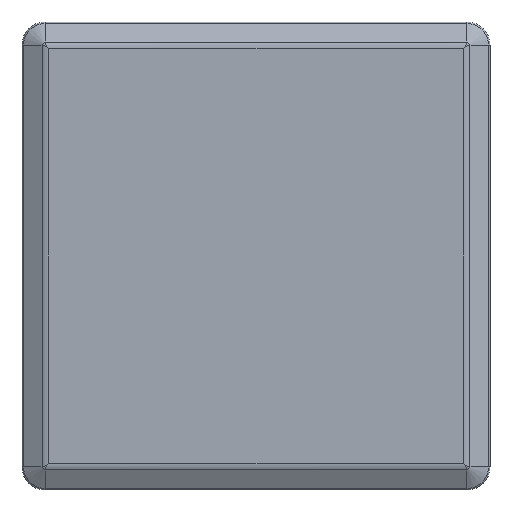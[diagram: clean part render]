
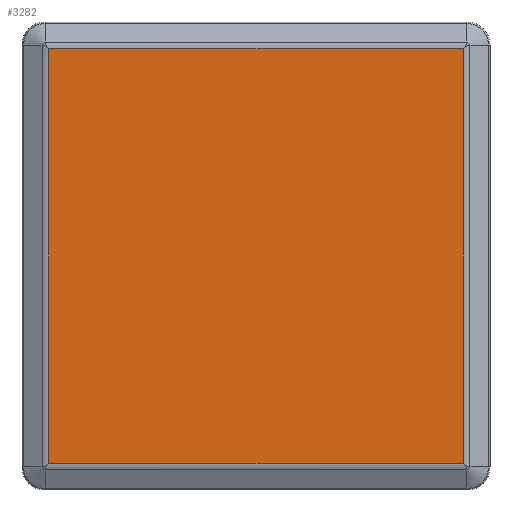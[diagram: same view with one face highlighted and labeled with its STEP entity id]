
A CAD part, front view. The second image highlights one B-rep face of the part: STEP entity #3282.
In plain terms, the highlighted planar face has unit normal (0, -1, 0).
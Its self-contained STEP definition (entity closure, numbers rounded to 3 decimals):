
#41 = EDGE_CURVE ( 'NONE', #1167, #441, #3137, .T. ) ;
#99 = VERTEX_POINT ( 'NONE', #3879 ) ;
#375 = ORIENTED_EDGE ( 'NONE', *, *, #3607, .T. ) ;
#441 = VERTEX_POINT ( 'NONE', #3079 ) ;
#513 = EDGE_CURVE ( 'NONE', #441, #1335, #668, .T. ) ;
#668 = LINE ( 'NONE', #3261, #3780 ) ;
#698 = VECTOR ( 'NONE', #1317, 1000. ) ;
#937 = ORIENTED_EDGE ( 'NONE', *, *, #41, .T. ) ;
#1167 = VERTEX_POINT ( 'NONE', #2328 ) ;
#1317 = DIRECTION ( 'NONE',  ( -1., 0., 0. ) ) ;
#1332 = CARTESIAN_POINT ( 'NONE',  ( -32., 0., 31.464 ) ) ;
#1335 = VERTEX_POINT ( 'NONE', #1402 ) ;
#1402 = CARTESIAN_POINT ( 'NONE',  ( 31.464, 0., -31.464 ) ) ;
#1519 = CARTESIAN_POINT ( 'NONE',  ( 31.464, 0., 32. ) ) ;
#1822 = AXIS2_PLACEMENT_3D ( 'NONE', #2243, #2202, #1996 ) ;
#1859 = EDGE_LOOP ( 'NONE', ( #937, #2580, #375, #2174 ) ) ;
#1996 = DIRECTION ( 'NONE',  ( 0., 0., -1. ) ) ;
#2174 = ORIENTED_EDGE ( 'NONE', *, *, #3035, .T. ) ;
#2202 = DIRECTION ( 'NONE',  ( 0., -1., 0. ) ) ;
#2243 = CARTESIAN_POINT ( 'NONE',  ( -32., 0., 32. ) ) ;
#2288 = LINE ( 'NONE', #1332, #698 ) ;
#2328 = CARTESIAN_POINT ( 'NONE',  ( -31.464, 0., 31.464 ) ) ;
#2396 = VECTOR ( 'NONE', #3376, 1000. ) ;
#2405 = DIRECTION ( 'NONE',  ( 1., 0., 0. ) ) ;
#2580 = ORIENTED_EDGE ( 'NONE', *, *, #513, .T. ) ;
#2670 = FACE_OUTER_BOUND ( 'NONE', #1859, .T. ) ;
#2770 = PLANE ( 'NONE',  #1822 ) ;
#3035 = EDGE_CURVE ( 'NONE', #99, #1167, #2288, .T. ) ;
#3079 = CARTESIAN_POINT ( 'NONE',  ( -31.464, 0., -31.464 ) ) ;
#3137 = LINE ( 'NONE', #3218, #2396 ) ;
#3218 = CARTESIAN_POINT ( 'NONE',  ( -31.464, 0., 32. ) ) ;
#3261 = CARTESIAN_POINT ( 'NONE',  ( -32., 0., -31.464 ) ) ;
#3282 = ADVANCED_FACE ( 'NONE', ( #2670 ), #2770, .T. ) ;
#3376 = DIRECTION ( 'NONE',  ( 0., 0., -1. ) ) ;
#3507 = LINE ( 'NONE', #1519, #3715 ) ;
#3607 = EDGE_CURVE ( 'NONE', #1335, #99, #3507, .T. ) ;
#3715 = VECTOR ( 'NONE', #3717, 1000. ) ;
#3717 = DIRECTION ( 'NONE',  ( 0., 0., 1. ) ) ;
#3780 = VECTOR ( 'NONE', #2405, 1000. ) ;
#3879 = CARTESIAN_POINT ( 'NONE',  ( 31.464, 0., 31.464 ) ) ;
